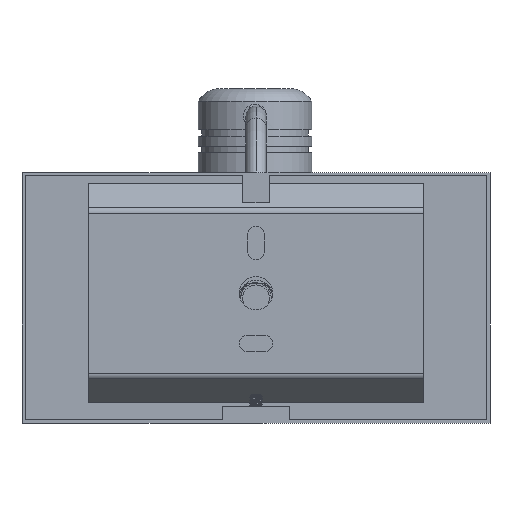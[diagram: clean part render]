
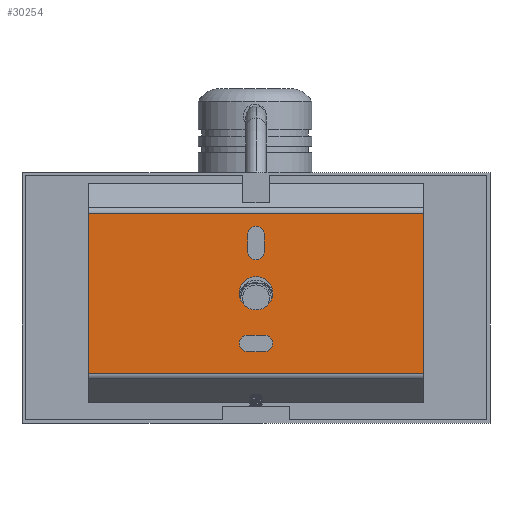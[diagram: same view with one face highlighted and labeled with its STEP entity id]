
A CAD part, left-side view. The second image highlights one B-rep face of the part: STEP entity #30254.
In plain terms, the highlighted planar face has unit normal (-1, 0, 0) as drawn and (1, 0, 0) by its records, which use the part's own axes.
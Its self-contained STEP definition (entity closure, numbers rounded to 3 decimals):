
#29809=DIRECTION('',(0.,1.,0.));
#29810=VECTOR('',#29809,100.);
#29811=CARTESIAN_POINT('',(35.,-50.,-24.));
#29812=LINE('',#29811,#29810);
#29813=DIRECTION('',(0.,0.,1.));
#29814=VECTOR('',#29813,48.);
#29815=CARTESIAN_POINT('',(35.,-50.,-24.));
#29816=LINE('',#29815,#29814);
#29817=DIRECTION('',(0.,1.,0.));
#29818=VECTOR('',#29817,100.);
#29819=CARTESIAN_POINT('',(35.,-50.,24.));
#29820=LINE('',#29819,#29818);
#29821=CARTESIAN_POINT('',(35.,0.,0.));
#29822=DIRECTION('',(1.,0.,0.));
#29823=DIRECTION('',(0.,0.,-1.));
#29824=AXIS2_PLACEMENT_3D('',#29821,#29822,#29823);
#29826=CARTESIAN_POINT('',(35.,0.,0.));
#29827=DIRECTION('',(1.,0.,0.));
#29828=DIRECTION('',(0.,0.,1.));
#29829=AXIS2_PLACEMENT_3D('',#29826,#29827,#29828);
#29831=DIRECTION('',(0.,0.,1.));
#29832=VECTOR('',#29831,5.);
#29833=CARTESIAN_POINT('',(35.,-2.5,12.5));
#29834=LINE('',#29833,#29832);
#29835=CARTESIAN_POINT('',(35.,0.,12.5));
#29836=DIRECTION('',(1.,0.,0.));
#29837=DIRECTION('',(0.,-1.,0.));
#29838=AXIS2_PLACEMENT_3D('',#29835,#29836,#29837);
#29840=DIRECTION('',(0.,0.,-1.));
#29841=VECTOR('',#29840,5.);
#29842=CARTESIAN_POINT('',(35.,2.5,17.5));
#29843=LINE('',#29842,#29841);
#29844=CARTESIAN_POINT('',(35.,0.,17.5));
#29845=DIRECTION('',(1.,0.,0.));
#29846=DIRECTION('',(0.,1.,0.));
#29847=AXIS2_PLACEMENT_3D('',#29844,#29845,#29846);
#29849=DIRECTION('',(0.,1.,0.));
#29850=VECTOR('',#29849,5.);
#29851=CARTESIAN_POINT('',(35.,-2.5,-12.5));
#29852=LINE('',#29851,#29850);
#29853=CARTESIAN_POINT('',(35.,-2.5,-15.));
#29854=DIRECTION('',(1.,0.,0.));
#29855=DIRECTION('',(0.,0.,1.));
#29856=AXIS2_PLACEMENT_3D('',#29853,#29854,#29855);
#29858=DIRECTION('',(0.,-1.,0.));
#29859=VECTOR('',#29858,5.);
#29860=CARTESIAN_POINT('',(35.,2.5,-17.5));
#29861=LINE('',#29860,#29859);
#29862=CARTESIAN_POINT('',(35.,2.5,-15.));
#29863=DIRECTION('',(1.,0.,0.));
#29864=DIRECTION('',(0.,0.,-1.));
#29865=AXIS2_PLACEMENT_3D('',#29862,#29863,#29864);
#29906=DIRECTION('',(0.,0.,1.));
#29907=VECTOR('',#29906,48.);
#29908=CARTESIAN_POINT('',(35.,50.,-24.));
#29909=LINE('',#29908,#29907);
#30151=CARTESIAN_POINT('',(35.,50.,24.));
#30152=VERTEX_POINT('',#30151);
#30153=CARTESIAN_POINT('',(35.,-50.,24.));
#30154=VERTEX_POINT('',#30153);
#30157=CARTESIAN_POINT('',(35.,-50.,-24.));
#30158=VERTEX_POINT('',#30157);
#30159=CARTESIAN_POINT('',(35.,50.,-24.));
#30160=VERTEX_POINT('',#30159);
#30173=CARTESIAN_POINT('',(35.,0.,-5.));
#30174=CARTESIAN_POINT('',(35.,0.,5.));
#30175=VERTEX_POINT('',#30173);
#30176=VERTEX_POINT('',#30174);
#30177=CARTESIAN_POINT('',(35.,-2.5,12.5));
#30178=CARTESIAN_POINT('',(35.,-2.5,17.5));
#30179=VERTEX_POINT('',#30177);
#30180=VERTEX_POINT('',#30178);
#30181=CARTESIAN_POINT('',(35.,2.5,17.5));
#30182=VERTEX_POINT('',#30181);
#30183=CARTESIAN_POINT('',(35.,2.5,12.5));
#30184=VERTEX_POINT('',#30183);
#30185=CARTESIAN_POINT('',(35.,-2.5,-12.5));
#30186=CARTESIAN_POINT('',(35.,2.5,-12.5));
#30187=VERTEX_POINT('',#30185);
#30188=VERTEX_POINT('',#30186);
#30189=CARTESIAN_POINT('',(35.,2.5,-17.5));
#30190=VERTEX_POINT('',#30189);
#30191=CARTESIAN_POINT('',(35.,-2.5,-17.5));
#30192=VERTEX_POINT('',#30191);
#30213=CARTESIAN_POINT('',(35.,-50.,-36.5));
#30214=DIRECTION('',(1.,0.,0.));
#30215=DIRECTION('',(0.,1.,0.));
#30216=AXIS2_PLACEMENT_3D('',#30213,#30214,#30215);
#30217=PLANE('',#30216);
#30219=ORIENTED_EDGE('',*,*,#30218,.F.);
#30221=ORIENTED_EDGE('',*,*,#30220,.T.);
#30223=ORIENTED_EDGE('',*,*,#30222,.T.);
#30225=ORIENTED_EDGE('',*,*,#30224,.F.);
#30226=EDGE_LOOP('',(#30219,#30221,#30223,#30225));
#30227=FACE_OUTER_BOUND('',#30226,.F.);
#30229=ORIENTED_EDGE('',*,*,#30228,.T.);
#30231=ORIENTED_EDGE('',*,*,#30230,.T.);
#30232=EDGE_LOOP('',(#30229,#30231));
#30233=FACE_BOUND('',#30232,.F.);
#30235=ORIENTED_EDGE('',*,*,#30234,.F.);
#30237=ORIENTED_EDGE('',*,*,#30236,.T.);
#30239=ORIENTED_EDGE('',*,*,#30238,.F.);
#30241=ORIENTED_EDGE('',*,*,#30240,.T.);
#30242=EDGE_LOOP('',(#30235,#30237,#30239,#30241));
#30243=FACE_BOUND('',#30242,.F.);
#30245=ORIENTED_EDGE('',*,*,#30244,.F.);
#30247=ORIENTED_EDGE('',*,*,#30246,.T.);
#30249=ORIENTED_EDGE('',*,*,#30248,.F.);
#30251=ORIENTED_EDGE('',*,*,#30250,.T.);
#30252=EDGE_LOOP('',(#30245,#30247,#30249,#30251));
#30253=FACE_BOUND('',#30252,.F.);
#30254=ADVANCED_FACE('',(#30227,#30233,#30243,#30253),#30217,.T.);
#29825=CIRCLE('',#29824,5.);
#29830=CIRCLE('',#29829,5.);
#29839=CIRCLE('',#29838,2.5);
#29848=CIRCLE('',#29847,2.5);
#29857=CIRCLE('',#29856,2.5);
#29866=CIRCLE('',#29865,2.5);
#30218=EDGE_CURVE('',#30158,#30160,#29812,.T.);
#30220=EDGE_CURVE('',#30158,#30154,#29816,.T.);
#30222=EDGE_CURVE('',#30154,#30152,#29820,.T.);
#30224=EDGE_CURVE('',#30160,#30152,#29909,.T.);
#30228=EDGE_CURVE('',#30175,#30176,#29825,.T.);
#30230=EDGE_CURVE('',#30176,#30175,#29830,.T.);
#30234=EDGE_CURVE('',#30179,#30180,#29834,.T.);
#30236=EDGE_CURVE('',#30179,#30184,#29839,.T.);
#30238=EDGE_CURVE('',#30182,#30184,#29843,.T.);
#30240=EDGE_CURVE('',#30182,#30180,#29848,.T.);
#30244=EDGE_CURVE('',#30187,#30188,#29852,.T.);
#30246=EDGE_CURVE('',#30187,#30192,#29857,.T.);
#30248=EDGE_CURVE('',#30190,#30192,#29861,.T.);
#30250=EDGE_CURVE('',#30190,#30188,#29866,.T.);
